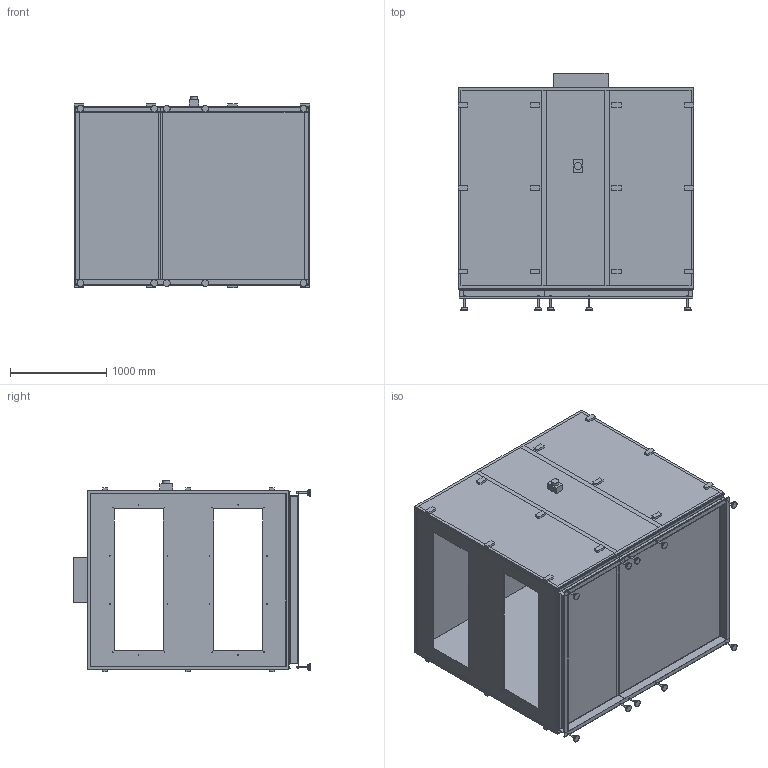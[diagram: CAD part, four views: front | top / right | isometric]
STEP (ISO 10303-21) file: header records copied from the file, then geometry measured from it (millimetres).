
FILE_DESCRIPTION(/* description */ (''),/* implementation_level */ '2;1');
FILE_NAME(/* name */ 'Z:\Output\AIR1_RH_12000-04350-001.stp',/* time_stamp */ '2020-10-09T15:05:23+02:00',/* author */ ('engineering2'),/* organization */ (''),/* preprocessor_version */ 'ST-DEVELOPER v17.2',/* originating_system */ 'Autodesk Inventor 2019',/* authorisation */ '');
FILE_SCHEMA (('AUTOMOTIVE_DESIGN { 1 0 10303 214 3 1 1 }'));
Length unit declared in the file: millimetre
Products named in the file (1): 04345-001_AIR1 RH 3000
Bounding box: 2450 x 2465 x 1991 mm (x, y, z)
Volume: 416123092.4 mm3; surface area: 51633528.3 mm2
Topology: 25 solids, 25 shells, 420 faces, 1031 edges, 703 vertices
Faces by surface type: plane 319, cylinder 71, torus 20, cone 10
Full cylindrical faces by diameter (mm): 6.647 x40, 16 x20, 70 x10, 75 x1
Entity records: 12632 total; most frequent: CARTESIAN_POINT 2155, DIRECTION 2145, ORIENTED_EDGE 2062, EDGE_CURVE 1031, LINE 759, VECTOR 759, VERTEX_POINT 703, AXIS2_PLACEMENT_3D 693
